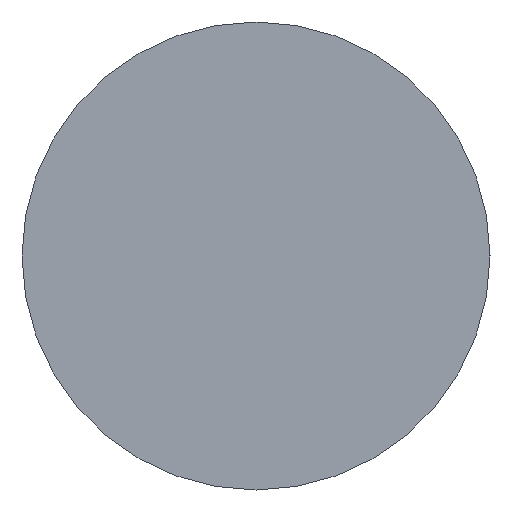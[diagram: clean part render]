
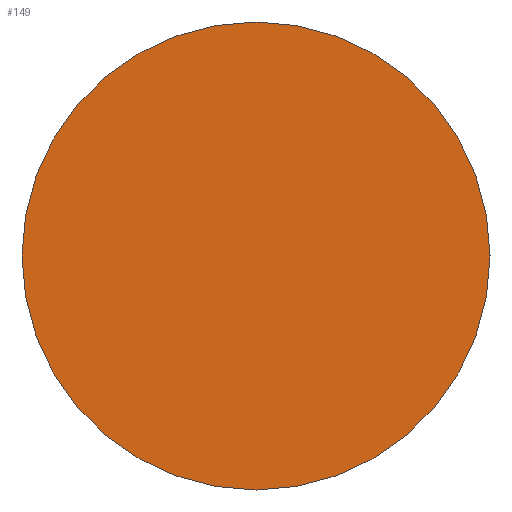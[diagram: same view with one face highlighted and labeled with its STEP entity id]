
A CAD part, left-side view. The second image highlights one B-rep face of the part: STEP entity #149.
In plain terms, the highlighted planar face has unit normal (-1, 0, 0).
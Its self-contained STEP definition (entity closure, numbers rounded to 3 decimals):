
#1 = DIRECTION ( 'NONE',  ( -1., 0., 0. ) ) ;
#7 = PLANE ( 'NONE',  #107 ) ;
#8 = DIRECTION ( 'NONE',  ( 0., 1., 0. ) ) ;
#11 = VERTEX_POINT ( 'NONE', #25 ) ;
#20 = DIRECTION ( 'NONE',  ( 0., 1., 0. ) ) ;
#25 = CARTESIAN_POINT ( 'NONE',  ( 0., 2.5, 0. ) ) ;
#31 = ORIENTED_EDGE ( 'NONE', *, *, #96, .F. ) ;
#36 = CARTESIAN_POINT ( 'NONE',  ( 0., -2.5, 0. ) ) ;
#59 = DIRECTION ( 'NONE',  ( 0., -1., 0. ) ) ;
#61 = CIRCLE ( 'NONE', #203, 2.5 ) ;
#75 = CARTESIAN_POINT ( 'NONE',  ( 0., 0., 0. ) ) ;
#89 = CARTESIAN_POINT ( 'NONE',  ( 0., 0., 0. ) ) ;
#92 = EDGE_CURVE ( 'NONE', #11, #94, #61, .T. ) ;
#94 = VERTEX_POINT ( 'NONE', #36 ) ;
#96 = EDGE_CURVE ( 'NONE', #94, #11, #98, .T. ) ;
#98 = CIRCLE ( 'NONE', #174, 2.5 ) ;
#107 = AXIS2_PLACEMENT_3D ( 'NONE', #89, #1, #59 ) ;
#126 = DIRECTION ( 'NONE',  ( 1., 0., 0. ) ) ;
#149 = ADVANCED_FACE ( 'NONE', ( #150 ), #7, .T. ) ;
#150 = FACE_OUTER_BOUND ( 'NONE', #197, .T. ) ;
#159 = DIRECTION ( 'NONE',  ( 1., 0., 0. ) ) ;
#174 = AXIS2_PLACEMENT_3D ( 'NONE', #190, #126, #20 ) ;
#190 = CARTESIAN_POINT ( 'NONE',  ( 0., 0., 0. ) ) ;
#197 = EDGE_LOOP ( 'NONE', ( #250, #31 ) ) ;
#203 = AXIS2_PLACEMENT_3D ( 'NONE', #75, #159, #8 ) ;
#250 = ORIENTED_EDGE ( 'NONE', *, *, #92, .F. ) ;
